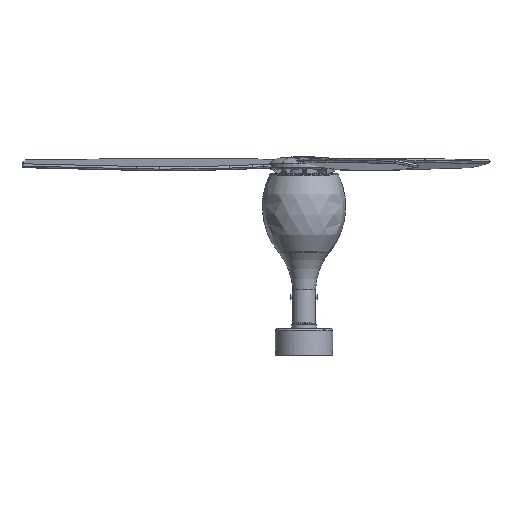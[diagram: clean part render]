
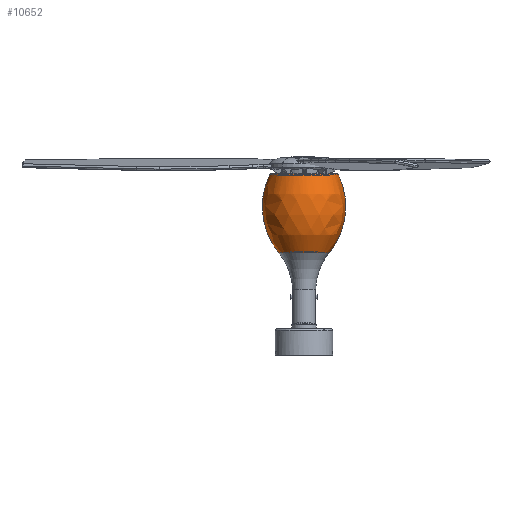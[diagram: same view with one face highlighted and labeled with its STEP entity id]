
A CAD part, left-side view. The second image highlights one B-rep face of the part: STEP entity #10652.
In plain terms, the highlighted free-form (B-spline) face has degree [2, 2] with [3, 5] control points.
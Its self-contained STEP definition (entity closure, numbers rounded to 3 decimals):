
#51=(
BOUNDED_SURFACE()
B_SPLINE_SURFACE(2,2,((#20178,#20179,#20180,#20181,#20182),(#20183,#20184,
#20185,#20186,#20187),(#20188,#20189,#20190,#20191,#20192)),
 .UNSPECIFIED.,.F.,.F.,.F.)
B_SPLINE_SURFACE_WITH_KNOTS((3,3),(3,2,3),(-0.68,0.46),
(-1.571,0.,1.571),.UNSPECIFIED.)
GEOMETRIC_REPRESENTATION_ITEM()
RATIONAL_B_SPLINE_SURFACE(((1.,0.707,1.,0.707,1.),
(0.842,0.595,0.842,0.595,
0.842),(1.,0.707,1.,0.707,1.)))
REPRESENTATION_ITEM('')
SURFACE()
);
#624=CIRCLE('',#11447,164.71);
#626=CIRCLE('',#11449,164.71);
#627=CIRCLE('',#11450,57.784);
#1290=FACE_OUTER_BOUND('',#1983,.T.);
#1983=EDGE_LOOP('',(#8336,#8337,#8338,#8339));
#2711=B_SPLINE_CURVE_WITH_KNOTS('',3,(#20193,#20194,#20195,#20196,#20197,
#20198,#20199,#20200,#20201,#20202,#20203),.UNSPECIFIED.,.F.,.F.,(4,1,1,
1,1,1,1,1,4),(0.,0.125,0.25,0.375,0.5,0.625,0.75,0.875,1.),
 .UNSPECIFIED.);
#4635=VERTEX_POINT('',#20160);
#4636=VERTEX_POINT('',#20161);
#4637=VERTEX_POINT('',#20173);
#4638=VERTEX_POINT('',#20175);
#5949=EDGE_CURVE('',#4637,#4635,#624,.T.);
#5951=EDGE_CURVE('',#4636,#4638,#626,.T.);
#5952=EDGE_CURVE('',#4636,#4635,#2711,.T.);
#5953=EDGE_CURVE('',#4637,#4638,#627,.T.);
#8336=ORIENTED_EDGE('',*,*,#5952,.F.);
#8337=ORIENTED_EDGE('',*,*,#5951,.T.);
#8338=ORIENTED_EDGE('',*,*,#5953,.F.);
#8339=ORIENTED_EDGE('',*,*,#5949,.T.);
#10652=ADVANCED_FACE('',(#1290),#51,.F.);
#11447=AXIS2_PLACEMENT_3D('',#20174,#13055,#13056);
#11449=AXIS2_PLACEMENT_3D('',#20177,#13059,#13060);
#11450=AXIS2_PLACEMENT_3D('',#20204,#13061,#13062);
#13055=DIRECTION('center_axis',(-1.,0.,0.));
#13056=DIRECTION('ref_axis',(0.,-1.,0.));
#13059=DIRECTION('center_axis',(-1.,0.,0.));
#13060=DIRECTION('ref_axis',(0.,1.,0.));
#13061=DIRECTION('center_axis',(0.,0.,-1.));
#13062=DIRECTION('ref_axis',(1.,0.,0.));
#20160=CARTESIAN_POINT('',(0.,-77.225,409.036));
#20161=CARTESIAN_POINT('',(0.,77.225,409.036));
#20173=CARTESIAN_POINT('',(0.,-57.784,232.343));
#20174=CARTESIAN_POINT('Origin',(0.,70.334,
335.855));
#20175=CARTESIAN_POINT('',(0.,57.784,232.343));
#20177=CARTESIAN_POINT('Origin',(0.,-70.334,
335.855));
#20178=CARTESIAN_POINT('Ctrl Pts',(0.,57.784,
232.343));
#20179=CARTESIAN_POINT('Ctrl Pts',(-57.784,57.784,232.343));
#20180=CARTESIAN_POINT('Ctrl Pts',(-57.784,0.,
232.343));
#20181=CARTESIAN_POINT('Ctrl Pts',(-57.784,-57.784,
232.343));
#20182=CARTESIAN_POINT('Ctrl Pts',(0.,-57.784,
232.343));
#20183=CARTESIAN_POINT('Ctrl Pts',(0.,124.135,
314.465));
#20184=CARTESIAN_POINT('Ctrl Pts',(-124.135,124.135,314.465));
#20185=CARTESIAN_POINT('Ctrl Pts',(-124.135,0.,
314.465));
#20186=CARTESIAN_POINT('Ctrl Pts',(-124.135,-124.135,
314.465));
#20187=CARTESIAN_POINT('Ctrl Pts',(0.,-124.135,
314.465));
#20188=CARTESIAN_POINT('Ctrl Pts',(0.,77.221,
409.046));
#20189=CARTESIAN_POINT('Ctrl Pts',(-77.221,77.221,409.046));
#20190=CARTESIAN_POINT('Ctrl Pts',(-77.221,0.,
409.046));
#20191=CARTESIAN_POINT('Ctrl Pts',(-77.221,-77.221,
409.046));
#20192=CARTESIAN_POINT('Ctrl Pts',(0.,-77.221,
409.046));
#20193=CARTESIAN_POINT('Ctrl Pts',(0.,77.225,409.036));
#20194=CARTESIAN_POINT('Ctrl Pts',(-10.149,77.327,409.036));
#20195=CARTESIAN_POINT('Ctrl Pts',(-30.303,73.157,409.036));
#20196=CARTESIAN_POINT('Ctrl Pts',(-56.033,56.041,409.036));
#20197=CARTESIAN_POINT('Ctrl Pts',(-73.203,30.319,409.036));
#20198=CARTESIAN_POINT('Ctrl Pts',(-79.237,0.,
409.036));
#20199=CARTESIAN_POINT('Ctrl Pts',(-73.203,-30.319,409.036));
#20200=CARTESIAN_POINT('Ctrl Pts',(-56.033,-56.041,409.036));
#20201=CARTESIAN_POINT('Ctrl Pts',(-30.303,-73.157,
409.036));
#20202=CARTESIAN_POINT('Ctrl Pts',(-10.149,-77.327,
409.036));
#20203=CARTESIAN_POINT('Ctrl Pts',(0.,-77.225,
409.036));
#20204=CARTESIAN_POINT('Origin',(0.,0.,232.343));
